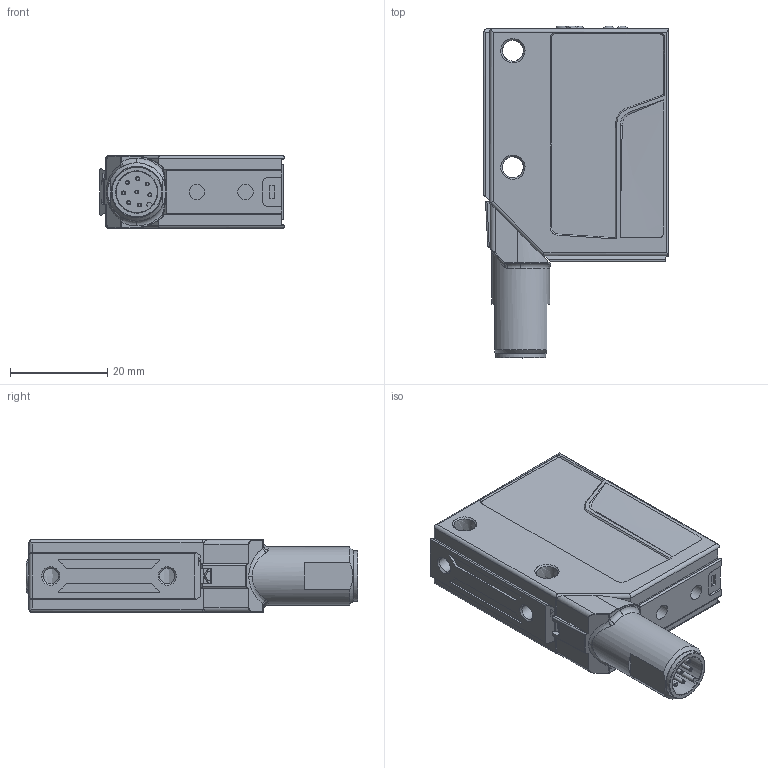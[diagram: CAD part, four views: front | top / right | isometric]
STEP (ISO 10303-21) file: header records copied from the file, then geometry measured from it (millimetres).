
FILE_DESCRIPTION(/* description */ (''),/* implementation_level */ '2;1');
FILE_NAME(/* name */ '3DCAD_ODSL8_Stecker_unten.stp',/* time_stamp */ '2019-02-22T15:33:40+01:00',/* author */ ('CC2'),/* organization */ ('Leuze electronic'),/* preprocessor_version */ 'ST-DEVELOPER v16',/* originating_system */ 'SIEMENS PLM Software NX 11.0',/* authorisation */ '');
FILE_SCHEMA (('AUTOMOTIVE_DESIGN { 1 0 10303 214 3 1 1 1 }'));
Length unit declared in the file: millimetre
Products named in the file (1): 19-102878_00_1-3DCAD_ODSL8_Stecker_unten
Bounding box: 38 x 68.41 x 15 mm (x, y, z)
Volume: 26883.8 mm3; surface area: 8979.9 mm2
Topology: 2 solids, 4 shells, 352 faces, 924 edges, 606 vertices
Faces by surface type: plane 156, cylinder 100, bspline 48, torus 26, cone 20, sphere 2
Full cylindrical faces by diameter (mm): 0.8 x8, 3.2 x4, 4.6 x1, 4.9 x1, 8.5 x1, 10.4 x1, 12 x1, 12.8 x1
Entity records: 14226 total; most frequent: CARTESIAN_POINT 5421, ORIENTED_EDGE 1738, DIRECTION 1565, EDGE_CURVE 869, VERTEX_POINT 592, AXIS2_PLACEMENT_3D 576, EDGE_LOOP 429, LINE 413
